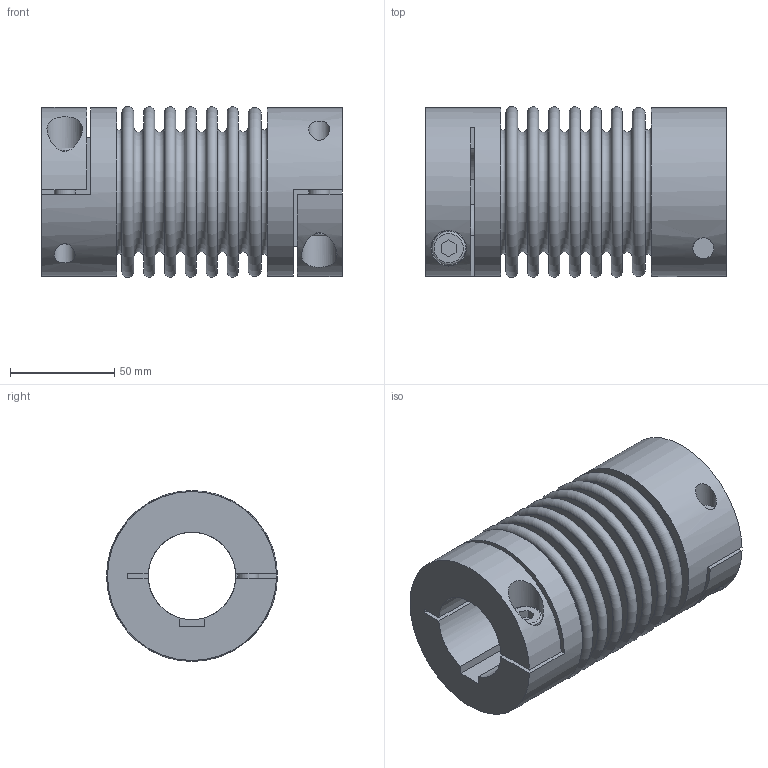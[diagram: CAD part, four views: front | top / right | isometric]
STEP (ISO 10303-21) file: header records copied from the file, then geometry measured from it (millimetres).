
FILE_DESCRIPTION(/* description */ ('STEP AP214'),/* implementation_level */ '2;1');
FILE_NAME(/* name */ 'C:\Diequa Files\DieQua Coupling\Website Step Files\BC.150.144.#.#.stp',/* time_stamp */ '2018-10-25T16:21:08-05:00',/* author */ ('DiequaCAD'),/* organization */ (''),/* preprocessor_version */ 'ST-DEVELOPER v17.2',/* originating_system */ 'Autodesk Inventor 2019',/* authorisation */ ' ');
FILE_SCHEMA (('AUTOMOTIVE_DESIGN { 1 0 10303 214 3 1 1 }'));
Length unit declared in the file: millimetre
Products named in the file (1): BC2.150.144.#.#
Bounding box: 144 x 81.97 x 81.97 mm (x, y, z)
Volume: 266148.1 mm3; surface area: 146480.5 mm2
Topology: 1 solids, 1 shells, 121 faces, 304 edges, 223 vertices
Faces by surface type: plane 74, torus 32, cylinder 14, cone 1
Full cylindrical faces by diameter (mm): 10 x4, 16 x2, 17 x2, 81 x2
Entity records: 4015 total; most frequent: CARTESIAN_POINT 800, DIRECTION 731, ORIENTED_EDGE 608, AXIS2_PLACEMENT_3D 312, EDGE_CURVE 304, VERTEX_POINT 223, CIRCLE 190, EDGE_LOOP 165
